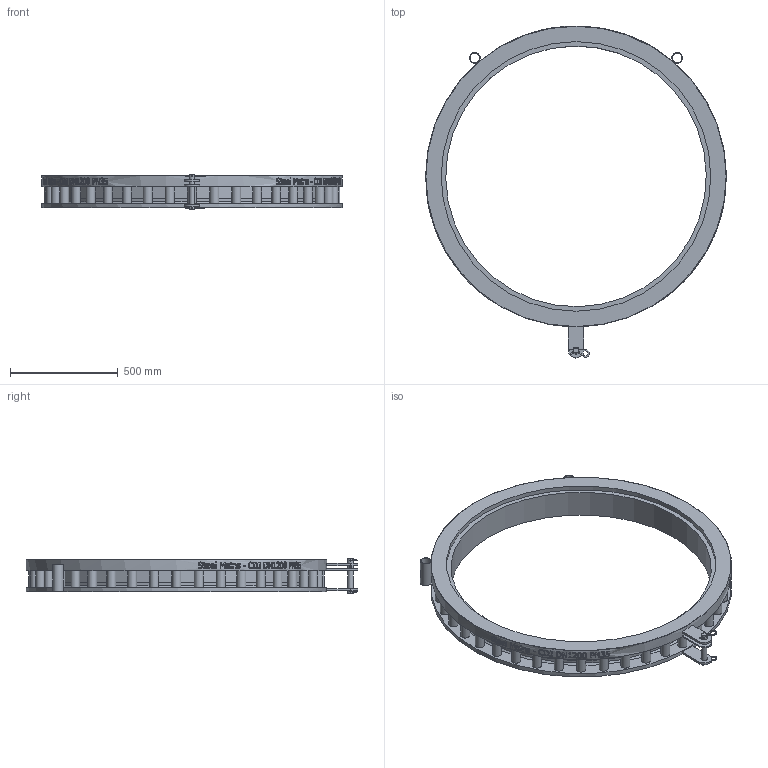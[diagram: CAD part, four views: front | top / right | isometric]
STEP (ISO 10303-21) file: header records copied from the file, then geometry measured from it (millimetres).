
FILE_DESCRIPTION(/* description */ (''),/* implementation_level */ '2;1');
FILE_NAME(/* name */ 'C:\Vault\Designs\Somerton\196\196-45 Models\Marketing Files\SteelMains - CDJ DN1200 PN35 - (196-45T rev C).stp',/* time_stamp */ '2025-09-29T13:25:42+10:00',/* author */ ('Sam.Cavallaro'),/* organization */ (''),/* preprocessor_version */ 'ST-DEVELOPER v18.1',/* originating_system */ 'Autodesk Inventor 2021',/* authorisation */ '');
FILE_SCHEMA (('AUTOMOTIVE_DESIGN { 1 0 10303 214 3 1 1 }'));
Length unit declared in the file: millimetre
Products named in the file (1): SPS_ENG-085089
Bounding box: 1398.99 x 1543.98 x 161 mm (x, y, z)
Volume: 36251666.7 mm3; surface area: 3028977 mm2
Topology: 6 solids, 6 shells, 887 faces, 2423 edges, 1617 vertices
Faces by surface type: bspline 412, plane 325, cylinder 137, torus 8, cone 5
Full cylindrical faces by diameter (mm): 4.8 x10, 6 x3, 25 x1, 30 x3, 42 x40, 44 x2, 50 x2, 1212 x1, 1248 x1, 1252 x1, 1254 x1, 1399 x1
Entity records: 39084 total; most frequent: CARTESIAN_POINT 18552, ORIENTED_EDGE 4852, DIRECTION 3002, EDGE_CURVE 2426, VERTEX_POINT 1620, LINE 1118, VECTOR 1118, EDGE_LOOP 1054
